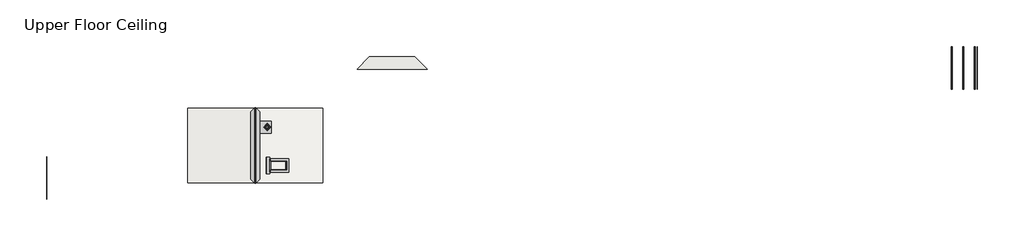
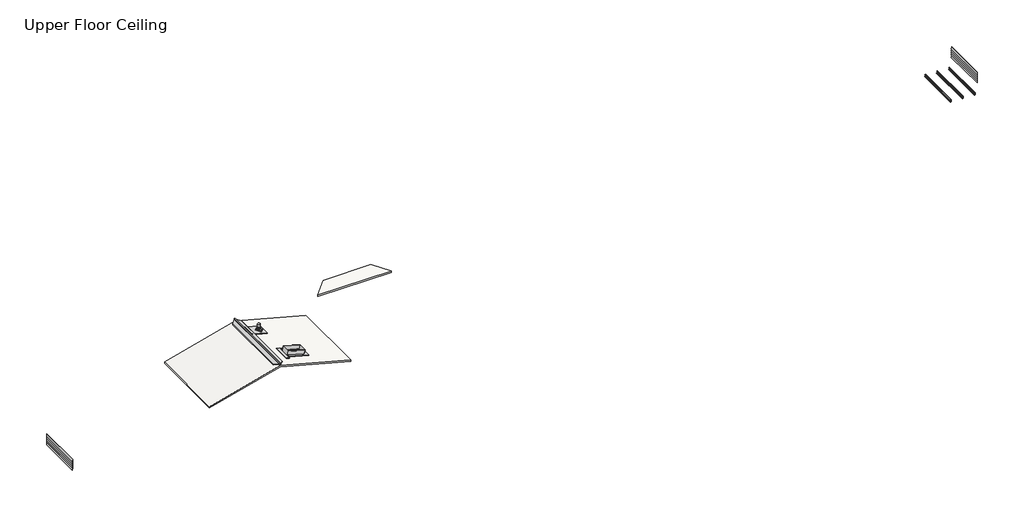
# One storey: 13 beams, 7 proxies, 2 roofs, 1 furniture element.
"""IFC4 building model written with IfcOpenShell, lengths in millimetres."""

from ifc_helpers import new_model, si_unit, frame, origin, place, context, project, spatial, polyline, outline, extrude, faceted_brep, transform, mapped, element, save
from components import beam_5568a965, purlin1_purlin_2_c59bf742, chimney_flashing5_chimney_flashing_99ecaff2, chimney_penetration_flashing7_chimney_flashing_15c1c62a, chimney_penetration_flashing8_chimney_flashing_8440fa7c, pipe_penetration_cone_sleeve1_pipe_penetration_cone_sleeve_d81db76d, pipe_penetration_diagonal_flashing1_pipe_penetration_9034e6d2, pipe_penetration_flashing1_chimney_flashing_11f8b881, roof_a_ridge_cap_flashing1_ridge_cap_flashing_063d5443, pipe_penetration2_pipe_penetration_62f8e00c

model = new_model("IFC4")

# Units and contexts
model_context = context("Model", 3, world=origin())
ifc_project = project(units=[si_unit("LENGTHUNIT", "METRE", prefix="MILLI")], contexts=[model_context])

# Site, building, storey
site = spatial("IfcSite", under=ifc_project)
building = spatial("IfcBuilding", under=site)
storey = spatial("IfcBuildingStorey", under=building, Name="Upper Floor Ceiling", Elevation=5105.0)

# Beams
placement = place(None, origin())
beam_shape = beam_5568a965(model_context)
element("IfcBeam", 1, ObjectType="weatherboad1 : weatherboad 2", at=placement, inside=storey, context=model_context, shape_type="MappedRepresentation", body=[
    mapped(beam_shape, transform((-27378.0880915, -21784.5415677, 4680.7759782), x_axis=(0.0, -1.0000000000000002, 0.0), y_axis=(0.0, 0.0, -1.0000000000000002), z_axis=(1.0000000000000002, 0.0, 0.0))),
])
element("IfcBeam", 2, ObjectType="weatherboad1 : weatherboad 2", at=placement, inside=storey, context=model_context, shape_type="MappedRepresentation", body=[
    mapped(beam_shape, transform((-27378.0880915, -21784.5415677, 4834.6739763), x_axis=(0.0, -1.0000000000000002, 0.0), y_axis=(0.0, 0.0, -1.0000000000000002), z_axis=(1.0000000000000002, 0.0, 0.0))),
])
element("IfcBeam", 3, ObjectType="weatherboad1 : weatherboad 2", at=placement, inside=storey, context=model_context, shape_type="MappedRepresentation", body=[
    mapped(beam_shape, transform((-27378.0880915, -21784.5415677, 4988.5719745), x_axis=(0.0, -1.0000000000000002, 0.0), y_axis=(0.0, 0.0, -1.0000000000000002), z_axis=(1.0000000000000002, 0.0, 0.0))),
])
element("IfcBeam", 4, ObjectType="weatherboad1 : weatherboad 2", at=placement, inside=storey, context=model_context, shape_type="MappedRepresentation", body=[
    mapped(beam_shape, transform((-27378.0880915, -21784.5415677, 5142.4699727), x_axis=(0.0, -1.0000000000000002, 0.0), y_axis=(0.0, 0.0, -1.0000000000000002), z_axis=(1.0000000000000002, 0.0, 0.0))),
])
element("IfcBeam", 5, ObjectType="weatherboad1 : weatherboad 2", at=placement, inside=storey, context=model_context, shape_type="MappedRepresentation", body=[
    mapped(beam_shape, transform((-27378.0880915, -21784.5415677, 5296.3679709), x_axis=(0.0, -1.0000000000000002, 0.0), y_axis=(0.0, 0.0, -1.0000000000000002), z_axis=(1.0000000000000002, 0.0, 0.0))),
])
element("IfcBeam", 6, ObjectType="weatherboad1 : weatherboad", at=placement, inside=storey, context=model_context, shape_type="MappedRepresentation", body=[
    mapped(beam_shape, transform((40139.1215317, -13791.9640915, 4680.7759782), x_axis=(0.0, -1.0000000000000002, 0.0), y_axis=(0.0, 0.0, -1.0000000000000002), z_axis=(1.0000000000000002, 0.0, 0.0))),
])
element("IfcBeam", 7, ObjectType="weatherboad1 : weatherboad", at=placement, inside=storey, context=model_context, shape_type="MappedRepresentation", body=[
    mapped(beam_shape, transform((40139.1215317, -13791.9640915, 4834.6739763), x_axis=(0.0, -1.0000000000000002, 0.0), y_axis=(0.0, 0.0, -1.0000000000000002), z_axis=(1.0000000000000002, 0.0, 0.0))),
])
element("IfcBeam", 8, ObjectType="weatherboad1 : weatherboad", at=placement, inside=storey, context=model_context, shape_type="MappedRepresentation", body=[
    mapped(beam_shape, transform((40139.1215317, -13791.9640915, 4988.5719745), x_axis=(0.0, -1.0000000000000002, 0.0), y_axis=(0.0, 0.0, -1.0000000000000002), z_axis=(1.0000000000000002, 0.0, 0.0))),
])
element("IfcBeam", 9, ObjectType="weatherboad1 : weatherboad", at=placement, inside=storey, context=model_context, shape_type="MappedRepresentation", body=[
    mapped(beam_shape, transform((40139.1215317, -13791.9640915, 5142.4699727), x_axis=(0.0, -1.0000000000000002, 0.0), y_axis=(0.0, 0.0, -1.0000000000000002), z_axis=(1.0000000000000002, 0.0, 0.0))),
])
element("IfcBeam", 10, ObjectType="weatherboad1 : weatherboad", at=placement, inside=storey, context=model_context, shape_type="MappedRepresentation", body=[
    mapped(beam_shape, transform((40139.1215317, -13791.9640915, 5296.3679709), x_axis=(0.0, -1.0000000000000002, 0.0), y_axis=(0.0, 0.0, -1.0000000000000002), z_axis=(1.0000000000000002, 0.0, 0.0))),
])
purlin1_purlin_2_shape = purlin1_purlin_2_c59bf742(model_context)
element("IfcBeam", 11, ObjectType="Purlin1 : Purlin 2", at=placement, inside=storey, context=model_context, shape_type="MappedRepresentation", body=[
    mapped(purlin1_purlin_2_shape, transform((39942.687938, -13792.736952, 3757.0), x_axis=(0.0, -1.0, 0.0), y_axis=(1.0, 0.0, 0.0), z_axis=(0.0, 0.0, 1.0))),
])
element("IfcBeam", 12, ObjectType="Purlin1 : Purlin 2", at=placement, inside=storey, context=model_context, shape_type="MappedRepresentation", body=[
    mapped(purlin1_purlin_2_shape, transform((39109.8012162, -13792.736952, 3783.8367328), x_axis=(0.0, -1.0, 0.0), y_axis=(0.9993908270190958, 0.0, -0.034899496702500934), z_axis=(0.034899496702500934, 0.0, 0.9993908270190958))),
])
element("IfcBeam", 13, ObjectType="Purlin1 : Purlin 2", at=placement, inside=storey, context=model_context, shape_type="MappedRepresentation", body=[
    mapped(purlin1_purlin_2_shape, transform((38286.8525564, -13792.736952, 3812.6065155), x_axis=(0.0, -1.0, 0.0), y_axis=(0.9993908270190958, 0.0, -0.034899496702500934), z_axis=(0.034899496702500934, 0.0, 0.9993908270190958))),
])

# Proxies
chimney_flashing5_chimney_flashing_shape = chimney_flashing5_chimney_flashing_99ecaff2(model_context)
element("IfcBuildingElementProxy", 14, Name="Chimney Flashing5 : Chimney Flashing", ObjectType="Chimney Flashing5 : Chimney Flashing", at=placement, inside=storey, context=model_context, shape_type="MappedRepresentation", body=[
    mapped(chimney_flashing5_chimney_flashing_shape, transform((-5148.6521222, 14028.922833, -1283.3625242), x_axis=(1.0, 0.0, 0.0), y_axis=(0.0, 1.0, 0.0), z_axis=(0.0, 0.0, 1.0))),
])
chimney_penetration_flashing7_chimney_flashing_shape = chimney_penetration_flashing7_chimney_flashing_15c1c62a(model_context)
element("IfcBuildingElementProxy", 15, Name="Chimney Penetration Flashing7 : Chimney Flashing", ObjectType="Chimney Penetration Flashing7 : Chimney Flashing", at=placement, inside=storey, context=model_context, shape_type="MappedRepresentation", body=[
    mapped(chimney_penetration_flashing7_chimney_flashing_shape, transform((-5133.0439956, 12680.1053558, -1283.3264666), x_axis=(1.0, 0.0, 0.0), y_axis=(0.0, 1.0, 0.0), z_axis=(0.0, 0.0, 1.0))),
])
chimney_penetration_flashing8_chimney_flashing_shape = chimney_penetration_flashing8_chimney_flashing_8440fa7c(model_context)
element("IfcBuildingElementProxy", 16, Name="Chimney Penetration Flashing8 : Chimney Flashing", ObjectType="Chimney Penetration Flashing8 : Chimney Flashing", at=placement, inside=storey, context=model_context, shape_type="MappedRepresentation", body=[
    mapped(chimney_penetration_flashing8_chimney_flashing_shape, transform((-5148.6424042, 14028.922833, -1283.326218), x_axis=(1.0, 0.0, 0.0), y_axis=(0.0, 1.0, 0.0), z_axis=(0.0, 0.0, 1.0))),
])
pipe_penetration_cone_sleeve1_pipe_penetration_cone_sleeve_shape = pipe_penetration_cone_sleeve1_pipe_penetration_cone_sleeve_d81db76d(model_context)
element("IfcBuildingElementProxy", 17, Name="Pipe Penetration Cone Sleeve1 : Pipe Penetration Cone Sleeve", ObjectType="Pipe Penetration Cone Sleeve1 : Pipe Penetration Cone Sleeve", at=placement, inside=storey, context=model_context, shape_type="MappedRepresentation", body=[
    mapped(pipe_penetration_cone_sleeve1_pipe_penetration_cone_sleeve_shape, transform((0.0, 0.0, 0.0), x_axis=(1.0, 0.0, 0.0), y_axis=(0.0, 1.0, 0.0), z_axis=(0.0, 0.0, 1.0))),
])
pipe_penetration_diagonal_flashing1_pipe_penetration_shape = pipe_penetration_diagonal_flashing1_pipe_penetration_9034e6d2(model_context)
element("IfcBuildingElementProxy", 18, Name="Pipe Penetration Diagonal Flashing1 : Pipe Penetration Diagonal Flashing", ObjectType="Pipe Penetration Diagonal Flashing1 : Pipe Penetration Diagonal Flashing", at=placement, inside=storey, context=model_context, shape_type="MappedRepresentation", body=[
    mapped(pipe_penetration_diagonal_flashing1_pipe_penetration_shape, transform((0.0, 0.0, 0.0), x_axis=(1.0, 0.0, 0.0), y_axis=(0.0, 1.0, 0.0), z_axis=(0.0, 0.0, 1.0))),
])
pipe_penetration_flashing1_chimney_flashing_shape = pipe_penetration_flashing1_chimney_flashing_11f8b881(model_context)
element("IfcBuildingElementProxy", 19, Name="Pipe Penetration Flashing1 : Chimney Flashing", ObjectType="Pipe Penetration Flashing1 : Chimney Flashing", at=placement, inside=storey, context=model_context, shape_type="MappedRepresentation", body=[
    mapped(pipe_penetration_flashing1_chimney_flashing_shape, transform((0.0, 0.0, 0.0), x_axis=(1.0, 0.0, 0.0), y_axis=(0.0, 1.0, 0.0), z_axis=(0.0, 0.0, 1.0))),
])
roof_a_ridge_cap_flashing1_ridge_cap_flashing_shape = roof_a_ridge_cap_flashing1_ridge_cap_flashing_063d5443(model_context)
element("IfcBuildingElementProxy", 20, Name="Roof A - Ridge Cap Flashing1 : Ridge Cap Flashing", ObjectType="Roof A - Ridge Cap Flashing1 : Ridge Cap Flashing", at=placement, inside=storey, context=model_context, shape_type="MappedRepresentation", body=[
    mapped(roof_a_ridge_cap_flashing1_ridge_cap_flashing_shape, transform((0.0, 0.0, 0.0), x_axis=(1.0, 0.0, 0.0), y_axis=(0.0, 1.0, 0.0), z_axis=(0.0, 0.0, 1.0))),
])

# Furniture
pipe_penetration2_pipe_penetration_shape = pipe_penetration2_pipe_penetration_62f8e00c(model_context)
element("IfcFurniture", 21, ObjectType="Pipe Penetration2 : Pipe Penetration", at=placement, inside=storey, context=model_context, shape_type="MappedRepresentation", body=[
    mapped(pipe_penetration2_pipe_penetration_shape, transform((0.0, 0.0, 0.0), x_axis=(1.0, 0.0, 0.0), y_axis=(0.0, 1.0, 0.0), z_axis=(0.0, 0.0, 1.0))),
])

# Roofs
element("IfcRoof", 22, ObjectType="Generic - 100mm", at=placement, inside=storey, context=model_context, shape_type="SweptSolid", body=[
    extrude(outline(polyline([(4861.5334138, -7368.1375384), (6175.8242027, -12273.1375384), (4861.5334138, -17178.1375384), (4758.0057958, -17178.1375384), (6072.2965847, -12273.1375384), (4758.0057958, -7368.1375384), (4861.5334138, -7368.1375384)])), frame((0.0, -22136.1704124, 0.0), z_axis=(0.0, 1.0, 0.0), x_axis=(0.0, 0.0, 1.0)), (0.0, 0.0, 1.0), 5410.0),
])
element("IfcRoof", 23, ObjectType="Generic - 100mm", at=placement, inside=storey, context=model_context, shape_type="Brep", body=[
    faceted_brep([(-4876.0041697, -13896.5422441, 3657.0609536), (-3981.0041697, -13001.5422441, 3896.8754808), (-681.0041697, -13001.5422441, 3896.8754808), (213.9958303, -13896.5422441, 3657.0609536), (-3981.0041697, -13001.5422441, 4000.4030989), (-4876.0041697, -13896.5422441, 3760.5885717), (213.9958303, -13896.5422441, 3760.5885717), (-681.0041697, -13001.5422441, 4000.4030989)], [[[0, 1, 2, 3]], [[4, 5, 6, 7]], [[3, 6, 5, 0]], [[5, 4, 1, 0]], [[7, 6, 3, 2]], [[4, 7, 2, 1]]]),
])

save(model, "model.ifc")
